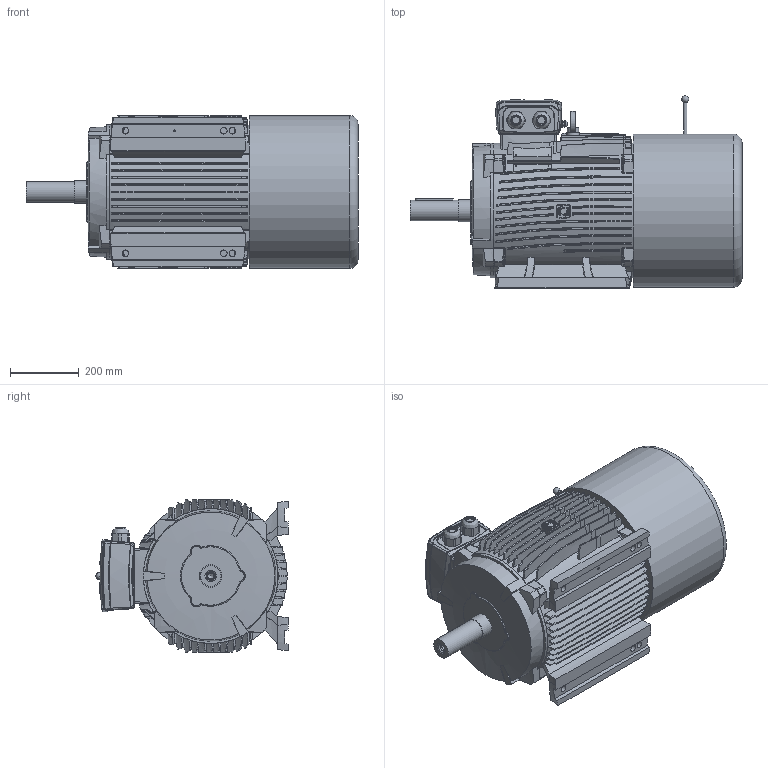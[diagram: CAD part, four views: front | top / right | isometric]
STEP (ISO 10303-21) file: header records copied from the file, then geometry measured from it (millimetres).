
FILE_DESCRIPTION((''),'2;1');
FILE_NAME('C:\xampp\htdocs\motive\source_step\M225M.stp','2019-04-10T09:33:12',('apache'),(''),'Autodesk Inventor 2013','Autodesk Inventor 2013','');
FILE_SCHEMA(('AUTOMOTIVE_DESIGN { 1 0 10303 214 1 1 1 1 }'));
Length unit declared in the file: millimetre
Products named in the file (9): M225M; FRA225MCB3; 3PNLOG160-200; 3PNLOG160-200_2; FCVATDC225; B3225; SH225M_4_8P; GOLFARE_M16; TBOX225
Assembly tree (8 placements, depth 2):
  M225M
    FRA225MCB3
    3PNLOG160-200
    3PNLOG160-200_2
    FCVATDC225
    B3225
    SH225M_4_8P
    GOLFARE_M16
    TBOX225
Bounding box: 965 x 558.85 x 445 mm (x, y, z)
Volume: 70978269.4 mm3; surface area: 3479932.3 mm2
Topology: 8 solids, 8 shells, 2202 faces, 5865 edges, 3797 vertices
Faces by surface type: plane 768, bspline 658, cylinder 405, torus 218, cone 146, sphere 7
Full cylindrical faces by diameter (mm): 2.5 x8, 4.8 x4, 5 x1, 6.8 x8, 9 x1, 10 x5, 10.2 x8, 14 x1, 15.8 x6, 16 x1, 17.3 x1, 17.5 x1, 19 x6, 21 x1, 21.39 x2, 27.72 x2, 32 x1, 33 x1, 60 x1, 64.97 x1, 65 x2, 368 x1, 372 x2, 378 x2, 445 x1
Entity records: 115007 total; most frequent: CARTESIAN_POINT 65133, ORIENTED_EDGE 11332, DIRECTION 8749, EDGE_CURVE 5666, VERTEX_POINT 3726, AXIS2_PLACEMENT_3D 3418, EDGE_LOOP 2500, FACE_OUTER_BOUND 2201
